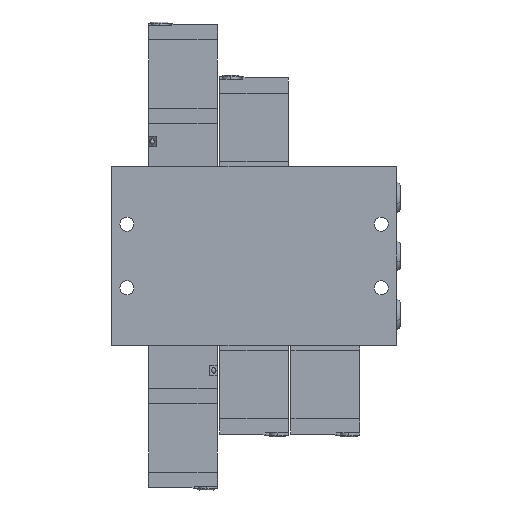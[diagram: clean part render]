
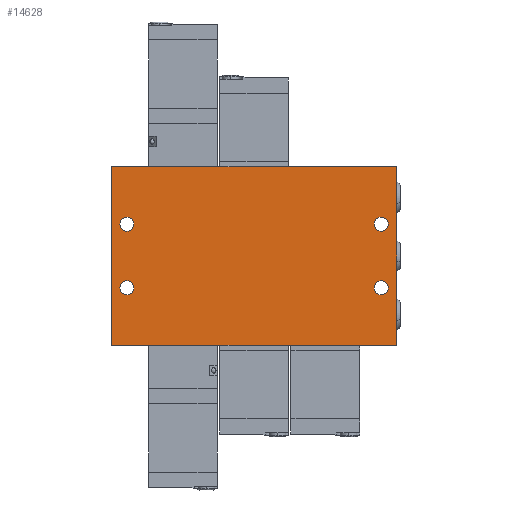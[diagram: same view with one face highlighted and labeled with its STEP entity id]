
A CAD part, front view. The second image highlights one B-rep face of the part: STEP entity #14628.
In plain terms, the highlighted planar face has unit normal (0, -1, 0).
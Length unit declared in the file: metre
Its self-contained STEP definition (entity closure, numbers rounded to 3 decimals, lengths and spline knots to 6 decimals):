
#81 = LINE ( 'NONE', #9266, #12996 ) ;
#129 = CARTESIAN_POINT ( 'NONE',  ( -0.04725, -0.015, 0.0125 ) ) ;
#147 = VERTEX_POINT ( 'NONE', #2505 ) ;
#273 = DIRECTION ( 'NONE',  ( 0., 0., 1. ) ) ;
#481 = VERTEX_POINT ( 'NONE', #129 ) ;
#524 = CIRCLE ( 'NONE', #8546, 0.00275 ) ;
#649 = DIRECTION ( 'NONE',  ( -1., 0., 0. ) ) ;
#926 = ORIENTED_EDGE ( 'NONE', *, *, #9974, .F. ) ;
#1412 = EDGE_CURVE ( 'NONE', #14232, #481, #8135, .T. ) ;
#1844 = DIRECTION ( 'NONE',  ( 0., -1., 0. ) ) ;
#2035 = AXIS2_PLACEMENT_3D ( 'NONE', #9565, #2077, #10820 ) ;
#2077 = DIRECTION ( 'NONE',  ( 0., -1., 0. ) ) ;
#2280 = ORIENTED_EDGE ( 'NONE', *, *, #6627, .F. ) ;
#2420 = AXIS2_PLACEMENT_3D ( 'NONE', #7925, #7969, #8020 ) ;
#2493 = DIRECTION ( 'NONE',  ( 0., 0., 1. ) ) ;
#2505 = CARTESIAN_POINT ( 'NONE',  ( 0.04725, -0.015, -0.0125 ) ) ;
#2604 = CARTESIAN_POINT ( 'NONE',  ( 0.056, -0.015, 0. ) ) ;
#2718 = ORIENTED_EDGE ( 'NONE', *, *, #15360, .F. ) ;
#2905 = DIRECTION ( 'NONE',  ( -1., 0., 0. ) ) ;
#3109 = VERTEX_POINT ( 'NONE', #6264 ) ;
#3236 = FACE_OUTER_BOUND ( 'NONE', #10316, .T. ) ;
#3267 = EDGE_CURVE ( 'NONE', #8274, #7991, #6751, .T. ) ;
#3302 = CARTESIAN_POINT ( 'NONE',  ( 0., -0.015, 0.035 ) ) ;
#3423 = VERTEX_POINT ( 'NONE', #10619 ) ;
#3535 = DIRECTION ( 'NONE',  ( 0., -1., 0. ) ) ;
#4232 = CARTESIAN_POINT ( 'NONE',  ( -0.056, -0.015, -0.035 ) ) ;
#4341 = CARTESIAN_POINT ( 'NONE',  ( 0.04725, -0.015, 0.0125 ) ) ;
#4748 = EDGE_CURVE ( 'NONE', #11693, #3109, #10856, .T. ) ;
#4767 = PLANE ( 'NONE',  #9925 ) ;
#4945 = EDGE_CURVE ( 'NONE', #3109, #11693, #5177, .T. ) ;
#5177 = CIRCLE ( 'NONE', #8391, 0.00275 ) ;
#5783 = VECTOR ( 'NONE', #273, 1. ) ;
#5823 = ORIENTED_EDGE ( 'NONE', *, *, #3267, .F. ) ;
#5824 = VERTEX_POINT ( 'NONE', #4232 ) ;
#5966 = EDGE_LOOP ( 'NONE', ( #11818, #10121 ) ) ;
#6098 = EDGE_CURVE ( 'NONE', #16125, #5824, #81, .T. ) ;
#6264 = CARTESIAN_POINT ( 'NONE',  ( -0.04725, -0.015, -0.0125 ) ) ;
#6443 = ORIENTED_EDGE ( 'NONE', *, *, #14326, .F. ) ;
#6566 = FACE_BOUND ( 'NONE', #15444, .T. ) ;
#6627 = EDGE_CURVE ( 'NONE', #481, #14232, #14564, .T. ) ;
#6751 = CIRCLE ( 'NONE', #2420, 0.00275 ) ;
#6890 = CARTESIAN_POINT ( 'NONE',  ( -0.05, -0.015, -0.0125 ) ) ;
#6898 = CIRCLE ( 'NONE', #13818, 0.00275 ) ;
#6927 = EDGE_CURVE ( 'NONE', #7119, #8604, #8042, .T. ) ;
#7119 = VERTEX_POINT ( 'NONE', #7774 ) ;
#7152 = EDGE_LOOP ( 'NONE', ( #7262, #5823 ) ) ;
#7193 = DIRECTION ( 'NONE',  ( 0., -1., 0. ) ) ;
#7262 = ORIENTED_EDGE ( 'NONE', *, *, #8947, .F. ) ;
#7326 = DIRECTION ( 'NONE',  ( -1., 0., 0. ) ) ;
#7334 = FACE_BOUND ( 'NONE', #5966, .T. ) ;
#7751 = EDGE_CURVE ( 'NONE', #16125, #7119, #9422, .T. ) ;
#7774 = CARTESIAN_POINT ( 'NONE',  ( 0.056, -0.015, 0.035 ) ) ;
#7820 = CARTESIAN_POINT ( 'NONE',  ( 0.056, -0.015, -0.035 ) ) ;
#7831 = CARTESIAN_POINT ( 'NONE',  ( -0.05275, -0.015, 0.0125 ) ) ;
#7925 = CARTESIAN_POINT ( 'NONE',  ( 0.05, -0.015, 0.0125 ) ) ;
#7969 = DIRECTION ( 'NONE',  ( 0., -1., 0. ) ) ;
#7991 = VERTEX_POINT ( 'NONE', #4341 ) ;
#8020 = DIRECTION ( 'NONE',  ( -1., 0., 0. ) ) ;
#8042 = LINE ( 'NONE', #3302, #11394 ) ;
#8099 = DIRECTION ( 'NONE',  ( 0., -1., 0. ) ) ;
#8135 = CIRCLE ( 'NONE', #15544, 0.00275 ) ;
#8274 = VERTEX_POINT ( 'NONE', #9418 ) ;
#8391 = AXIS2_PLACEMENT_3D ( 'NONE', #6890, #7193, #7326 ) ;
#8475 = CARTESIAN_POINT ( 'NONE',  ( -0.056, -0.015, -0.035 ) ) ;
#8533 = DIRECTION ( 'NONE',  ( 0., 0., 1. ) ) ;
#8546 = AXIS2_PLACEMENT_3D ( 'NONE', #9327, #1844, #10588 ) ;
#8604 = VERTEX_POINT ( 'NONE', #10387 ) ;
#8947 = EDGE_CURVE ( 'NONE', #7991, #8274, #6898, .T. ) ;
#9010 = CARTESIAN_POINT ( 'NONE',  ( -0.056, -0.015, 0. ) ) ;
#9097 = LINE ( 'NONE', #9010, #5783 ) ;
#9165 = CARTESIAN_POINT ( 'NONE',  ( -0.05275, -0.015, -0.0125 ) ) ;
#9266 = CARTESIAN_POINT ( 'NONE',  ( 0., -0.015, -0.035 ) ) ;
#9284 = DIRECTION ( 'NONE',  ( -1., 0., 0. ) ) ;
#9327 = CARTESIAN_POINT ( 'NONE',  ( 0.05, -0.015, -0.0125 ) ) ;
#9418 = CARTESIAN_POINT ( 'NONE',  ( 0.05275, -0.015, 0.0125 ) ) ;
#9422 = LINE ( 'NONE', #2604, #12755 ) ;
#9565 = CARTESIAN_POINT ( 'NONE',  ( 0.05, -0.015, -0.0125 ) ) ;
#9895 = FACE_BOUND ( 'NONE', #7152, .T. ) ;
#9925 = AXIS2_PLACEMENT_3D ( 'NONE', #8475, #16087, #8533 ) ;
#9974 = EDGE_CURVE ( 'NONE', #3423, #147, #12562, .T. ) ;
#10121 = ORIENTED_EDGE ( 'NONE', *, *, #4945, .F. ) ;
#10199 = AXIS2_PLACEMENT_3D ( 'NONE', #10704, #10760, #11001 ) ;
#10316 = EDGE_LOOP ( 'NONE', ( #13543, #11978, #2718, #14298 ) ) ;
#10387 = CARTESIAN_POINT ( 'NONE',  ( -0.056, -0.015, 0.035 ) ) ;
#10588 = DIRECTION ( 'NONE',  ( -1., 0., 0. ) ) ;
#10619 = CARTESIAN_POINT ( 'NONE',  ( 0.05275, -0.015, -0.0125 ) ) ;
#10704 = CARTESIAN_POINT ( 'NONE',  ( -0.05, -0.015, 0.0125 ) ) ;
#10760 = DIRECTION ( 'NONE',  ( 0., -1., 0. ) ) ;
#10820 = DIRECTION ( 'NONE',  ( -1., 0., 0. ) ) ;
#10856 = CIRCLE ( 'NONE', #14604, 0.00275 ) ;
#11001 = DIRECTION ( 'NONE',  ( -1., 0., 0. ) ) ;
#11023 = CARTESIAN_POINT ( 'NONE',  ( 0.05, -0.015, 0.0125 ) ) ;
#11339 = ORIENTED_EDGE ( 'NONE', *, *, #1412, .F. ) ;
#11394 = VECTOR ( 'NONE', #2905, 1. ) ;
#11693 = VERTEX_POINT ( 'NONE', #9165 ) ;
#11818 = ORIENTED_EDGE ( 'NONE', *, *, #4748, .F. ) ;
#11978 = ORIENTED_EDGE ( 'NONE', *, *, #6927, .T. ) ;
#12285 = DIRECTION ( 'NONE',  ( -1., 0., 0. ) ) ;
#12471 = EDGE_LOOP ( 'NONE', ( #11339, #2280 ) ) ;
#12562 = CIRCLE ( 'NONE', #2035, 0.00275 ) ;
#12755 = VECTOR ( 'NONE', #2493, 1. ) ;
#12996 = VECTOR ( 'NONE', #9284, 1. ) ;
#13543 = ORIENTED_EDGE ( 'NONE', *, *, #7751, .T. ) ;
#13634 = FACE_BOUND ( 'NONE', #12471, .T. ) ;
#13818 = AXIS2_PLACEMENT_3D ( 'NONE', #11023, #3535, #12285 ) ;
#14232 = VERTEX_POINT ( 'NONE', #7831 ) ;
#14298 = ORIENTED_EDGE ( 'NONE', *, *, #6098, .F. ) ;
#14326 = EDGE_CURVE ( 'NONE', #147, #3423, #524, .T. ) ;
#14435 = CARTESIAN_POINT ( 'NONE',  ( -0.05, -0.015, -0.0125 ) ) ;
#14451 = DIRECTION ( 'NONE',  ( 0., -1., 0. ) ) ;
#14472 = DIRECTION ( 'NONE',  ( -1., 0., 0. ) ) ;
#14564 = CIRCLE ( 'NONE', #10199, 0.00275 ) ;
#14604 = AXIS2_PLACEMENT_3D ( 'NONE', #14435, #14451, #14472 ) ;
#14628 = ADVANCED_FACE ( 'NONE', ( #9895, #7334, #13634, #6566, #3236 ), #4767, .F. ) ;
#15360 = EDGE_CURVE ( 'NONE', #5824, #8604, #9097, .T. ) ;
#15444 = EDGE_LOOP ( 'NONE', ( #6443, #926 ) ) ;
#15544 = AXIS2_PLACEMENT_3D ( 'NONE', #15671, #8099, #649 ) ;
#15671 = CARTESIAN_POINT ( 'NONE',  ( -0.05, -0.015, 0.0125 ) ) ;
#16087 = DIRECTION ( 'NONE',  ( 0., 1., 0. ) ) ;
#16125 = VERTEX_POINT ( 'NONE', #7820 ) ;
